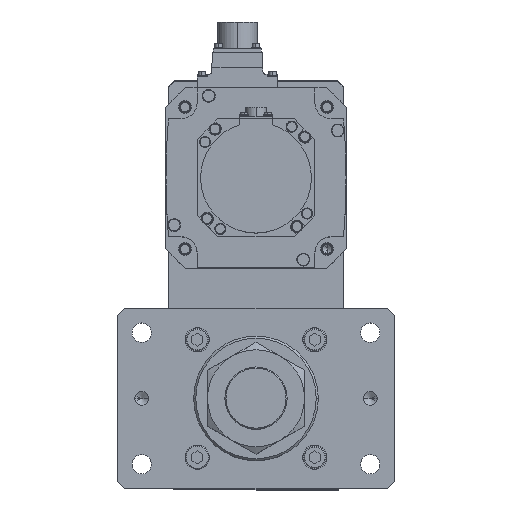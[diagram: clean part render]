
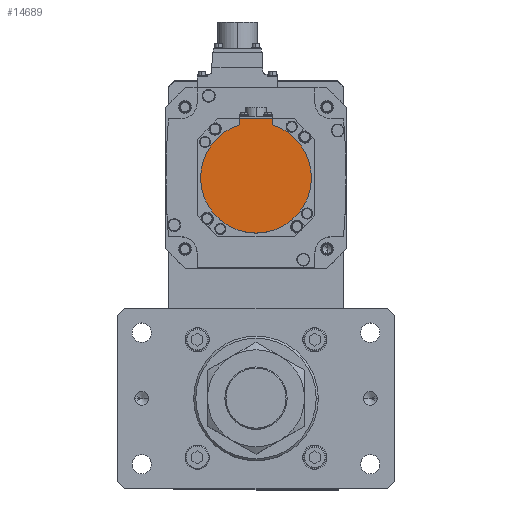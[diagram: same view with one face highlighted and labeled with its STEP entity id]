
A CAD part, top view. The second image highlights one B-rep face of the part: STEP entity #14689.
In plain terms, the highlighted planar face has unit normal (0, 0, 1) as drawn and (0, 0, -1) by its records, which use the part's own axes.
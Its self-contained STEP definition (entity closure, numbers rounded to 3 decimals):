
#979 = DIRECTION ( 'NONE',  ( 0., 0., 1. ) ) ;
#1916 = CARTESIAN_POINT ( 'NONE',  ( 12., -42.5, -146.5 ) ) ;
#2172 = VERTEX_POINT ( 'NONE', #5569 ) ;
#2828 = VERTEX_POINT ( 'NONE', #14661 ) ;
#2960 = DIRECTION ( 'NONE',  ( 0., 1., 0. ) ) ;
#3212 = PLANE ( 'NONE',  #19596 ) ;
#3600 = DIRECTION ( 'NONE',  ( -1., 0., 0. ) ) ;
#3999 = VECTOR ( 'NONE', #14899, 1000. ) ;
#4221 = CARTESIAN_POINT ( 'NONE',  ( -12., -40.329, -146.5 ) ) ;
#5569 = CARTESIAN_POINT ( 'NONE',  ( 12., -38.158, -146.5 ) ) ;
#7490 = DIRECTION ( 'NONE',  ( 1., 0., 0. ) ) ;
#7893 = EDGE_CURVE ( 'NONE', #17316, #32771, #25270, .T. ) ;
#7896 = ORIENTED_EDGE ( 'NONE', *, *, #11629, .F. ) ;
#7933 = CIRCLE ( 'NONE', #9229, 40. ) ;
#8558 = VECTOR ( 'NONE', #3600, 1000. ) ;
#8937 = EDGE_LOOP ( 'NONE', ( #25160, #26432, #15945, #7896, #17669, #14535 ) ) ;
#9229 = AXIS2_PLACEMENT_3D ( 'NONE', #22828, #25514, #25296 ) ;
#11303 = LINE ( 'NONE', #22353, #12977 ) ;
#11629 = EDGE_CURVE ( 'NONE', #2172, #2828, #13991, .T. ) ;
#11751 = DIRECTION ( 'NONE',  ( 1., 0., 0. ) ) ;
#12271 = CARTESIAN_POINT ( 'NONE',  ( -40., 0., -146.5 ) ) ;
#12977 = VECTOR ( 'NONE', #2960, 1000. ) ;
#13019 = DIRECTION ( 'NONE',  ( 0., 0., 1. ) ) ;
#13408 = FACE_OUTER_BOUND ( 'NONE', #8937, .T. ) ;
#13991 = CIRCLE ( 'NONE', #22177, 40. ) ;
#14535 = ORIENTED_EDGE ( 'NONE', *, *, #7893, .T. ) ;
#14661 = CARTESIAN_POINT ( 'NONE',  ( 40., 0., -146.5 ) ) ;
#14689 = ADVANCED_FACE ( 'NONE', ( #13408 ), #3212, .F. ) ;
#14899 = DIRECTION ( 'NONE',  ( 0., 1., 0. ) ) ;
#15078 = VERTEX_POINT ( 'NONE', #15243 ) ;
#15243 = CARTESIAN_POINT ( 'NONE',  ( -12., -38.158, -146.5 ) ) ;
#15700 = CARTESIAN_POINT ( 'NONE',  ( 0., 0., -146.5 ) ) ;
#15945 = ORIENTED_EDGE ( 'NONE', *, *, #20917, .F. ) ;
#16793 = AXIS2_PLACEMENT_3D ( 'NONE', #15700, #13019, #7490 ) ;
#17316 = VERTEX_POINT ( 'NONE', #1916 ) ;
#17669 = ORIENTED_EDGE ( 'NONE', *, *, #22206, .F. ) ;
#17790 = LINE ( 'NONE', #4221, #3999 ) ;
#19280 = CARTESIAN_POINT ( 'NONE',  ( 0., -42.5, -146.5 ) ) ;
#19596 = AXIS2_PLACEMENT_3D ( 'NONE', #21787, #24261, #30059 ) ;
#19920 = CARTESIAN_POINT ( 'NONE',  ( 0., 0., -146.5 ) ) ;
#20917 = EDGE_CURVE ( 'NONE', #2828, #29352, #27270, .T. ) ;
#21787 = CARTESIAN_POINT ( 'NONE',  ( 0., -1.249, -146.5 ) ) ;
#22177 = AXIS2_PLACEMENT_3D ( 'NONE', #19920, #979, #11751 ) ;
#22206 = EDGE_CURVE ( 'NONE', #17316, #2172, #11303, .T. ) ;
#22317 = EDGE_CURVE ( 'NONE', #29352, #15078, #7933, .T. ) ;
#22353 = CARTESIAN_POINT ( 'NONE',  ( 12., -1.249, -146.5 ) ) ;
#22828 = CARTESIAN_POINT ( 'NONE',  ( 0., 0., -146.5 ) ) ;
#23630 = CARTESIAN_POINT ( 'NONE',  ( -12., -42.5, -146.5 ) ) ;
#24261 = DIRECTION ( 'NONE',  ( 0., 0., 1. ) ) ;
#25160 = ORIENTED_EDGE ( 'NONE', *, *, #32541, .T. ) ;
#25270 = LINE ( 'NONE', #19280, #8558 ) ;
#25296 = DIRECTION ( 'NONE',  ( 1., 0., 0. ) ) ;
#25514 = DIRECTION ( 'NONE',  ( 0., 0., 1. ) ) ;
#26432 = ORIENTED_EDGE ( 'NONE', *, *, #22317, .F. ) ;
#27270 = CIRCLE ( 'NONE', #16793, 40. ) ;
#29352 = VERTEX_POINT ( 'NONE', #12271 ) ;
#30059 = DIRECTION ( 'NONE',  ( 1., 0., 0. ) ) ;
#32541 = EDGE_CURVE ( 'NONE', #32771, #15078, #17790, .T. ) ;
#32771 = VERTEX_POINT ( 'NONE', #23630 ) ;
